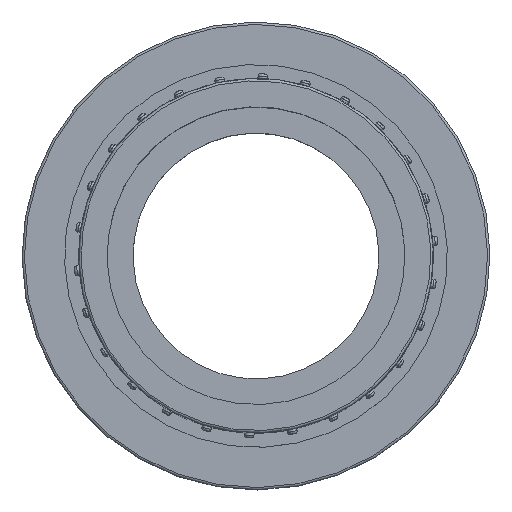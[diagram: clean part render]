
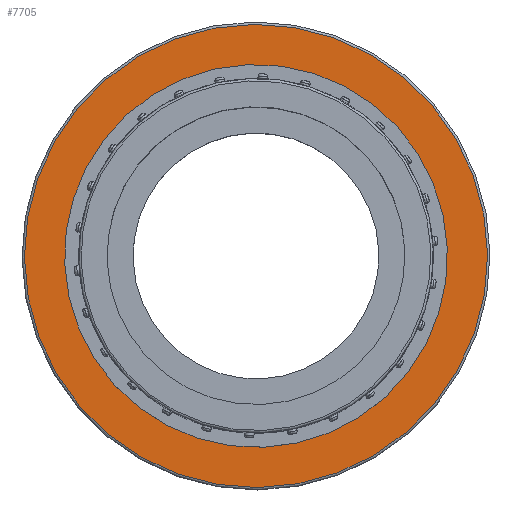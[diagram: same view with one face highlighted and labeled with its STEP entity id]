
A CAD part, top view. The second image highlights one B-rep face of the part: STEP entity #7705.
In plain terms, the highlighted planar face has unit normal (0, 0, 1).
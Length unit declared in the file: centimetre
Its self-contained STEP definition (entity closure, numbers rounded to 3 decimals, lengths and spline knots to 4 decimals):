
#1598=FACE_BOUND('',#2047,.T.);
#1626=FACE_OUTER_BOUND('',#2046,.T.);
#2046=EDGE_LOOP('',(#4812));
#2047=EDGE_LOOP('',(#4813));
#2494=CIRCLE('',#8130,4.9);
#2495=CIRCLE('',#8131,4.05);
#2912=VERTEX_POINT('',#11095);
#2913=VERTEX_POINT('',#11097);
#3666=EDGE_CURVE('',#2912,#2912,#2494,.T.);
#3667=EDGE_CURVE('',#2913,#2913,#2495,.T.);
#4812=ORIENTED_EDGE('',*,*,#3666,.F.);
#4813=ORIENTED_EDGE('',*,*,#3667,.F.);
#7104=PLANE('',#8129);
#7705=ADVANCED_FACE('',(#1626,#1598),#7104,.T.);
#8129=AXIS2_PLACEMENT_3D('',#11094,#8913,#8914);
#8130=AXIS2_PLACEMENT_3D('',#11096,#8915,#8916);
#8131=AXIS2_PLACEMENT_3D('',#11098,#8917,#8918);
#8913=DIRECTION('center_axis',(0.,0.,
1.));
#8914=DIRECTION('ref_axis',(-0.493,-0.87,0.));
#8915=DIRECTION('center_axis',(0.,0.,
-1.));
#8916=DIRECTION('ref_axis',(0.87,-0.493,0.));
#8917=DIRECTION('center_axis',(0.,0.,
1.));
#8918=DIRECTION('ref_axis',(0.537,-0.844,0.));
#11094=CARTESIAN_POINT('Origin',(-4.3053,2.4427,2.3));
#11095=CARTESIAN_POINT('',(-4.2618,2.418,2.3));
#11096=CARTESIAN_POINT('Origin',(0.,0.,
2.3));
#11097=CARTESIAN_POINT('',(-2.1735,3.4174,2.3));
#11098=CARTESIAN_POINT('Origin',(0.,0.,
2.3));
